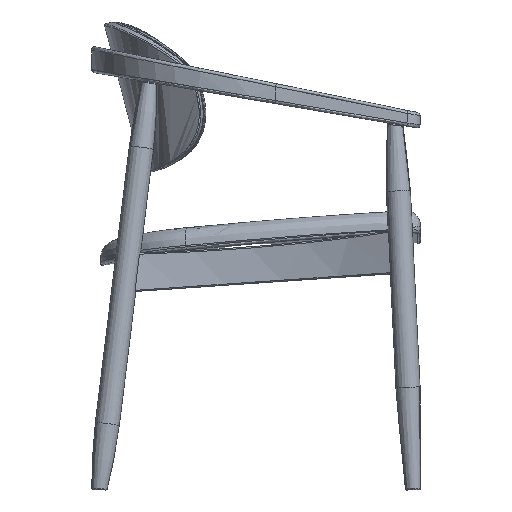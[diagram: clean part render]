
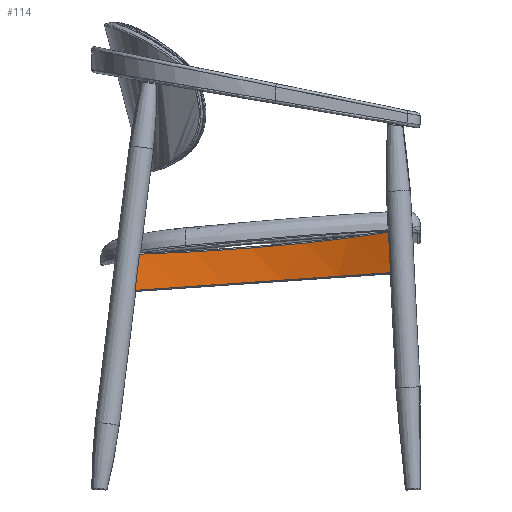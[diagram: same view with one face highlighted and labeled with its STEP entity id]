
A CAD part, left-side view. The second image highlights one B-rep face of the part: STEP entity #114.
In plain terms, the highlighted free-form (B-spline) face has degree [1, 2] with [2, 9] control points.
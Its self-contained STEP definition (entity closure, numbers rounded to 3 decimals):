
#114=ADVANCED_FACE('',(#283),#2713,.T.);
#283=FACE_OUTER_BOUND('',#452,.T.);
#452=EDGE_LOOP('',(#679,#680,#681,#682));
#679=ORIENTED_EDGE('',*,*,#1511,.F.);
#680=ORIENTED_EDGE('',*,*,#1500,.T.);
#681=ORIENTED_EDGE('',*,*,#1501,.F.);
#682=ORIENTED_EDGE('',*,*,#1499,.T.);
#1499=EDGE_CURVE('',#2410,#2409,#2080,.T.);
#1500=EDGE_CURVE('',#2404,#2403,#2081,.T.);
#1501=EDGE_CURVE('',#2410,#2403,#2082,.T.);
#1511=EDGE_CURVE('',#2404,#2409,#2089,.T.);
#2080=B_SPLINE_CURVE_WITH_KNOTS('',3,(#4009,#4010,#4011,#4012),
 .UNSPECIFIED.,.F.,.F.,(4,4),(0.033,0.1),
 .UNSPECIFIED.);
#2081=B_SPLINE_CURVE_WITH_KNOTS('',3,(#4013,#4014,#4015,#4016),
 .UNSPECIFIED.,.F.,.F.,(4,4),(0.179,0.239),
 .UNSPECIFIED.);
#2082=B_SPLINE_CURVE_WITH_KNOTS('',3,(#4017,#4018,#4019,#4020,#4021,#4022,
#4023,#4024,#4025,#4026,#4027,#4028,#4029,#4030,#4031,#4032,#4033,#4034,
#4035,#4036,#4037,#4038,#4039,#4040,#4041,#4042,#4043,#4044,#4045,#4046,
#4047,#4048,#4049,#4050),.UNSPECIFIED.,.F.,.F.,(4,2,2,2,2,2,2,2,2,2,2,2,
2,2,2,2,4),(1.105,1.151,1.198,1.244,
1.29,1.336,1.383,1.429,1.475,
1.521,1.568,1.614,1.66,1.706,
1.753,1.799,1.845),.UNSPECIFIED.);
#2089=B_SPLINE_CURVE_WITH_KNOTS('',3,(#4191,#4192,#4193,#4194,#4195,#4196,
#4197,#4198,#4199,#4200,#4201,#4202,#4203,#4204,#4205,#4206,#4207,#4208,
#4209,#4210,#4211,#4212,#4213,#4214,#4215,#4216),.UNSPECIFIED.,.F.,.F.,
(4,2,2,2,2,2,2,2,2,2,2,2,4),(0.,0.053,0.106,0.159,
0.172,0.185,0.212,0.265,
0.318,0.371,0.384,0.397,
0.424),.UNSPECIFIED.);
#2403=VERTEX_POINT('',#3757);
#2404=VERTEX_POINT('',#3758);
#2409=VERTEX_POINT('',#3763);
#2410=VERTEX_POINT('',#3764);
#2713=(
BOUNDED_SURFACE()
B_SPLINE_SURFACE(1,2,((#3458,#3459,#3460,#3461,#3462,#3463,#3464,#3465,
#3466),(#3467,#3468,#3469,#3470,#3471,#3472,#3473,#3474,#3475)),
 .UNSPECIFIED.,.F.,.F.,.F.)
B_SPLINE_SURFACE_WITH_KNOTS((2,2),(3,2,2,2,3),(0.,115.35),(0.,
922.843,1845.686,2768.529,3691.371),
 .UNSPECIFIED.)
GEOMETRIC_REPRESENTATION_ITEM()
RATIONAL_B_SPLINE_SURFACE(((1.,0.707,1.,0.707,1.,
0.707,1.,0.707,1.),(1.,0.707,1.,0.707,
1.,0.707,1.,0.707,1.)))
REPRESENTATION_ITEM('')
SURFACE()
);
#3458=CARTESIAN_POINT('',(-804.529,-273.89,321.065));
#3459=CARTESIAN_POINT('',(-217.029,-273.89,321.065));
#3460=CARTESIAN_POINT('',(-217.029,313.61,321.065));
#3461=CARTESIAN_POINT('',(-217.029,901.11,321.065));
#3462=CARTESIAN_POINT('',(-804.529,901.11,321.065));
#3463=CARTESIAN_POINT('',(-1392.029,901.11,321.065));
#3464=CARTESIAN_POINT('',(-1392.029,313.61,321.065));
#3465=CARTESIAN_POINT('',(-1392.029,-273.89,321.065));
#3466=CARTESIAN_POINT('',(-804.529,-273.89,321.065));
#3467=CARTESIAN_POINT('',(-804.529,-273.89,436.415));
#3468=CARTESIAN_POINT('',(-217.029,-273.89,436.415));
#3469=CARTESIAN_POINT('',(-217.029,313.61,436.415));
#3470=CARTESIAN_POINT('',(-217.029,901.11,436.415));
#3471=CARTESIAN_POINT('',(-804.529,901.11,436.415));
#3472=CARTESIAN_POINT('',(-1392.029,901.11,436.415));
#3473=CARTESIAN_POINT('',(-1392.029,313.61,436.415));
#3474=CARTESIAN_POINT('',(-1392.029,-273.89,436.415));
#3475=CARTESIAN_POINT('',(-804.529,-273.89,436.415));
#3757=CARTESIAN_POINT('',(-238.993,472.746,330.679));
#3758=CARTESIAN_POINT('',(-237.029,465.597,390.45));
#3763=CARTESIAN_POINT('',(-277.892,53.207,426.802));
#3764=CARTESIAN_POINT('',(-279.613,49.757,359.875));
#4009=CARTESIAN_POINT('',(-279.613,49.757,359.875));
#4010=CARTESIAN_POINT('',(-279.03,50.915,382.183));
#4011=CARTESIAN_POINT('',(-278.457,52.065,404.492));
#4012=CARTESIAN_POINT('',(-277.892,53.207,426.802));
#4013=CARTESIAN_POINT('',(-237.029,465.597,390.45));
#4014=CARTESIAN_POINT('',(-237.665,467.97,370.524));
#4015=CARTESIAN_POINT('',(-238.319,470.354,350.601));
#4016=CARTESIAN_POINT('',(-238.993,472.746,330.679));
#4017=CARTESIAN_POINT('',(-279.613,49.757,359.875));
#4018=CARTESIAN_POINT('',(-275.543,57.853,359.316));
#4019=CARTESIAN_POINT('',(-271.661,66.043,358.751));
#4020=CARTESIAN_POINT('',(-264.28,82.592,357.609));
#4021=CARTESIAN_POINT('',(-260.781,90.952,357.031));
#4022=CARTESIAN_POINT('',(-254.174,107.825,355.867));
#4023=CARTESIAN_POINT('',(-251.066,116.337,355.279));
#4024=CARTESIAN_POINT('',(-245.247,133.495,354.095));
#4025=CARTESIAN_POINT('',(-242.536,142.141,353.498));
#4026=CARTESIAN_POINT('',(-237.516,159.55,352.297));
#4027=CARTESIAN_POINT('',(-235.208,168.312,351.692));
#4028=CARTESIAN_POINT('',(-230.999,185.932,350.476));
#4029=CARTESIAN_POINT('',(-229.099,194.791,349.864));
#4030=CARTESIAN_POINT('',(-225.71,212.584,348.636));
#4031=CARTESIAN_POINT('',(-224.221,221.518,348.019));
#4032=CARTESIAN_POINT('',(-221.659,239.445,346.782));
#4033=CARTESIAN_POINT('',(-220.585,248.437,346.161));
#4034=CARTESIAN_POINT('',(-218.854,266.469,344.917));
#4035=CARTESIAN_POINT('',(-218.196,275.507,344.293));
#4036=CARTESIAN_POINT('',(-217.3,293.605,343.044));
#4037=CARTESIAN_POINT('',(-217.061,302.664,342.418));
#4038=CARTESIAN_POINT('',(-217.003,320.781,341.168));
#4039=CARTESIAN_POINT('',(-217.184,329.839,340.543));
#4040=CARTESIAN_POINT('',(-217.963,347.936,339.294));
#4041=CARTESIAN_POINT('',(-218.562,356.976,338.67));
#4042=CARTESIAN_POINT('',(-220.177,375.018,337.424));
#4043=CARTESIAN_POINT('',(-221.194,384.02,336.803));
#4044=CARTESIAN_POINT('',(-223.641,401.969,335.564));
#4045=CARTESIAN_POINT('',(-225.073,410.915,334.946));
#4046=CARTESIAN_POINT('',(-228.348,428.732,333.717));
#4047=CARTESIAN_POINT('',(-230.191,437.603,333.104));
#4048=CARTESIAN_POINT('',(-234.287,455.25,331.886));
#4049=CARTESIAN_POINT('',(-236.539,464.027,331.281));
#4050=CARTESIAN_POINT('',(-238.993,472.746,330.679));
#4191=CARTESIAN_POINT('',(-237.029,465.597,390.45));
#4192=CARTESIAN_POINT('',(-232.423,448.397,390.955));
#4193=CARTESIAN_POINT('',(-228.628,431.105,391.612));
#4194=CARTESIAN_POINT('',(-222.616,396.34,393.186));
#4195=CARTESIAN_POINT('',(-220.399,378.866,394.105));
#4196=CARTESIAN_POINT('',(-217.538,343.739,396.183));
#4197=CARTESIAN_POINT('',(-216.894,326.084,397.342));
#4198=CARTESIAN_POINT('',(-217.093,303.9,398.943));
#4199=CARTESIAN_POINT('',(-217.183,299.458,399.271));
#4200=CARTESIAN_POINT('',(-217.465,290.56,399.942));
#4201=CARTESIAN_POINT('',(-217.657,286.102,400.286));
#4202=CARTESIAN_POINT('',(-218.383,272.773,401.335));
#4203=CARTESIAN_POINT('',(-219.067,263.932,402.06));
#4204=CARTESIAN_POINT('',(-221.706,237.544,404.315));
#4205=CARTESIAN_POINT('',(-224.248,220.131,405.922));
#4206=CARTESIAN_POINT('',(-230.864,185.655,409.367));
#4207=CARTESIAN_POINT('',(-234.938,168.593,411.205));
#4208=CARTESIAN_POINT('',(-244.618,134.825,415.151));
#4209=CARTESIAN_POINT('',(-250.225,118.119,417.259));
#4210=CARTESIAN_POINT('',(-258.216,97.468,420.102));
#4211=CARTESIAN_POINT('',(-259.864,93.348,420.682));
#4212=CARTESIAN_POINT('',(-263.242,85.172,421.856));
#4213=CARTESIAN_POINT('',(-264.974,81.112,422.453));
#4214=CARTESIAN_POINT('',(-270.295,69.013,424.268));
#4215=CARTESIAN_POINT('',(-274.011,61.056,425.515));
#4216=CARTESIAN_POINT('',(-277.892,53.207,426.802));
